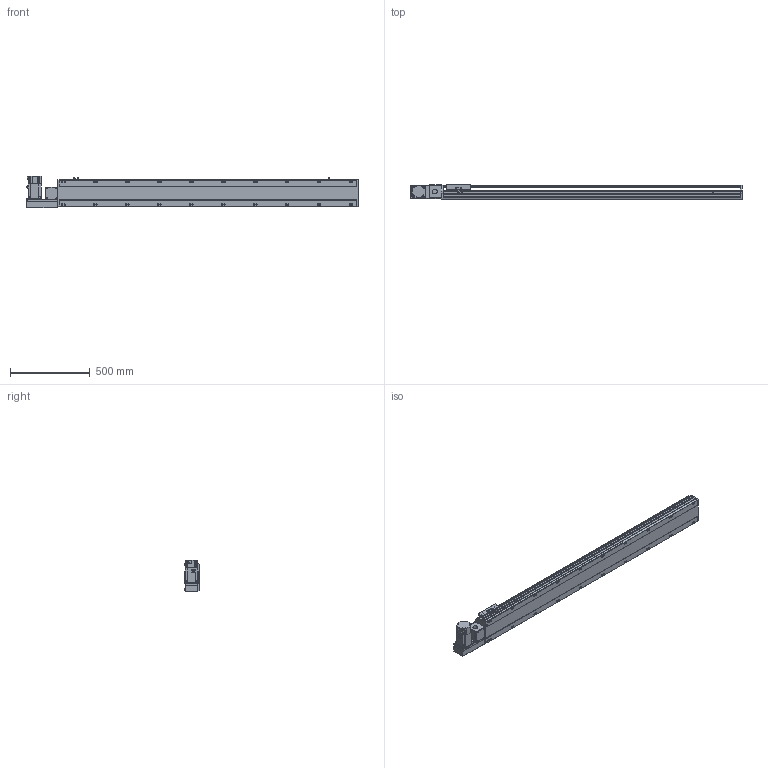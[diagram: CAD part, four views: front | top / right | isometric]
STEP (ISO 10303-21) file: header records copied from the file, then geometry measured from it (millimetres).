
FILE_DESCRIPTION( ( 'STEP AP214' ), '1' );
FILE_NAME( 'x:/temp/worker_3/temp/exporttempdir_5796_112_K5dpe/format_0/PBS170-P40-S1600-L-T75-C1-N(0).stp', '2022-06-07T06:57:20', ( 'License CC BY-ND 4.0' ), ( 'CADENAS' ), ' ', 'PARTsolutions', ' ' );
FILE_SCHEMA( ( 'AUTOMOTIVE_DESIGN { 1 0 10303 214 1 1 1 1 }' ) );
Length unit declared in the file: millimetre
Products named in the file (7): PBS170-P40-S1600-L-T75-C1-N(0); _PBS170-S1600()_body; _PBS170T-L_motors; _T75-p1; _PBS170_sliser; _PBS170_plant; _PBS170_sensor
Assembly tree (8 placements, depth 2):
  PBS170-P40-S1600-L-T75-C1-N(0)
    _PBS170-S1600()_body
    _PBS170T-L_motors
    _T75-p1
    _PBS170_sliser
    _PBS170_plant
    _PBS170_sensor  x3
Bounding box: 2078 x 97 x 197.3 mm (x, y, z)
Volume: 15267845.6 mm3; surface area: 1955094.3 mm2
Topology: 8 solids, 8 shells, 1114 faces, 2955 edges, 1926 vertices
Faces by surface type: plane 699, cylinder 355, cone 50, sphere 8, torus 2
Full cylindrical faces by diameter (mm): 3.242 x4, 4 x2, 4.4 x4, 4.5 x6, 4.917 x4, 6 x9, 6.647 x28, 7 x2, 7.5 x4, 8 x8, 8.5 x20, 10 x4, 10.5 x20, 11 x2, 30 x2, 40 x1, 70 x1
Entity records: 41024 total; most frequent: CARTESIAN_POINT 6557, DIRECTION 5440, ORIENTED_EDGE 5148, EDGE_CURVE 2574, AXIS2_PLACEMENT_3D 1897, VERTEX_POINT 1778, LINE 1646, VECTOR 1646
